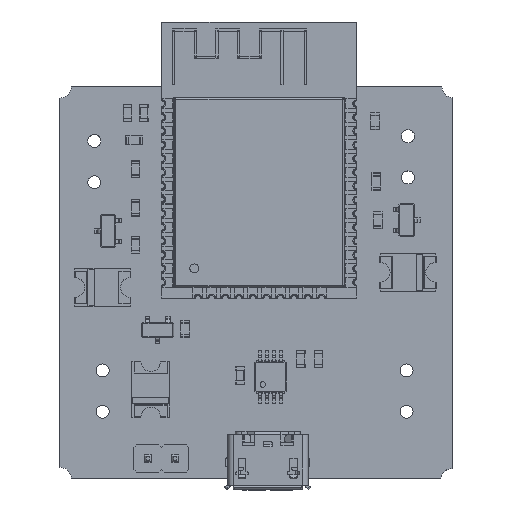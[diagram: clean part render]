
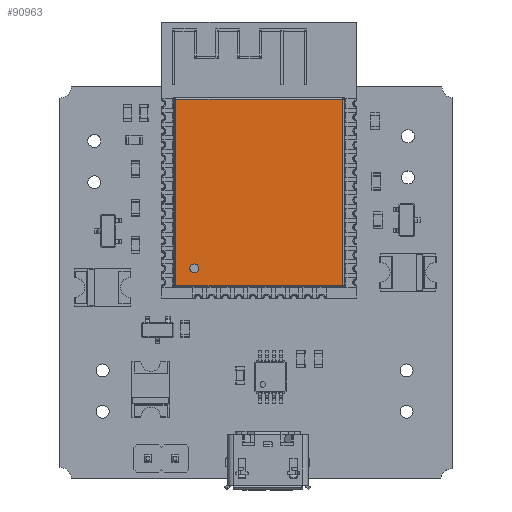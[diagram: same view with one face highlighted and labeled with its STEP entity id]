
A CAD part, top view. The second image highlights one B-rep face of the part: STEP entity #90963.
In plain terms, the highlighted planar face has unit normal (0, 0, 1).
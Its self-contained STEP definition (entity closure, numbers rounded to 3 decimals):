
#90764 = VERTEX_POINT('',#90765);
#90765 = CARTESIAN_POINT('',(-7.7,-8.6,3.1));
#90775 = CYLINDRICAL_SURFACE('',#90776,0.1);
#90776 = AXIS2_PLACEMENT_3D('',#90777,#90778,#90779);
#90777 = CARTESIAN_POINT('',(-7.7,-8.7,3.));
#90778 = DIRECTION('',(0.,1.,0.));
#90779 = DIRECTION('',(-1.,0.,0.));
#90799 = EDGE_CURVE('',#90764,#90800,#90802,.T.);
#90800 = VERTEX_POINT('',#90801);
#90801 = CARTESIAN_POINT('',(-7.7,8.6,3.1));
#90802 = SURFACE_CURVE('',#90803,(#90807,#90814),.PCURVE_S1.);
#90803 = LINE('',#90804,#90805);
#90804 = CARTESIAN_POINT('',(-7.7,-8.7,3.1));
#90805 = VECTOR('',#90806,1.);
#90806 = DIRECTION('',(0.,1.,0.));
#90807 = PCURVE('',#90775,#90808);
#90808 = DEFINITIONAL_REPRESENTATION('',(#90809),#90813);
#90809 = LINE('',#90810,#90811);
#90810 = CARTESIAN_POINT('',(1.571,0.));
#90811 = VECTOR('',#90812,1.);
#90812 = DIRECTION('',(0.,1.));
#90813 = ( GEOMETRIC_REPRESENTATION_CONTEXT(2) 
PARAMETRIC_REPRESENTATION_CONTEXT() REPRESENTATION_CONTEXT('2D SPACE',''
  ) );
#90814 = PCURVE('',#90815,#90820);
#90815 = PLANE('',#90816);
#90816 = AXIS2_PLACEMENT_3D('',#90817,#90818,#90819);
#90817 = CARTESIAN_POINT('',(-7.8,-8.7,3.1));
#90818 = DIRECTION('',(0.,0.,1.));
#90819 = DIRECTION('',(1.,0.,0.));
#90820 = DEFINITIONAL_REPRESENTATION('',(#90821),#90825);
#90821 = LINE('',#90822,#90823);
#90822 = CARTESIAN_POINT('',(0.1,0.));
#90823 = VECTOR('',#90824,1.);
#90824 = DIRECTION('',(0.,1.));
#90825 = ( GEOMETRIC_REPRESENTATION_CONTEXT(2) 
PARAMETRIC_REPRESENTATION_CONTEXT() REPRESENTATION_CONTEXT('2D SPACE',''
  ) );
#90951 = CYLINDRICAL_SURFACE('',#90952,0.1);
#90952 = AXIS2_PLACEMENT_3D('',#90953,#90954,#90955);
#90953 = CARTESIAN_POINT('',(-7.8,-8.6,3.));
#90954 = DIRECTION('',(1.,0.,0.));
#90955 = DIRECTION('',(0.,-1.,0.));
#90963 = ADVANCED_FACE('',(#90964,#91044),#90815,.T.);
#90964 = FACE_BOUND('',#90965,.T.);
#90965 = EDGE_LOOP('',(#90966,#90967,#90990,#91018));
#90966 = ORIENTED_EDGE('',*,*,#90799,.F.);
#90967 = ORIENTED_EDGE('',*,*,#90968,.T.);
#90968 = EDGE_CURVE('',#90764,#90969,#90971,.T.);
#90969 = VERTEX_POINT('',#90970);
#90970 = CARTESIAN_POINT('',(7.7,-8.6,3.1));
#90971 = SURFACE_CURVE('',#90972,(#90976,#90983),.PCURVE_S1.);
#90972 = LINE('',#90973,#90974);
#90973 = CARTESIAN_POINT('',(-7.8,-8.6,3.1));
#90974 = VECTOR('',#90975,1.);
#90975 = DIRECTION('',(1.,0.,0.));
#90976 = PCURVE('',#90815,#90977);
#90977 = DEFINITIONAL_REPRESENTATION('',(#90978),#90982);
#90978 = LINE('',#90979,#90980);
#90979 = CARTESIAN_POINT('',(0.,0.1));
#90980 = VECTOR('',#90981,1.);
#90981 = DIRECTION('',(1.,0.));
#90982 = ( GEOMETRIC_REPRESENTATION_CONTEXT(2) 
PARAMETRIC_REPRESENTATION_CONTEXT() REPRESENTATION_CONTEXT('2D SPACE',''
  ) );
#90983 = PCURVE('',#90951,#90984);
#90984 = DEFINITIONAL_REPRESENTATION('',(#90985),#90989);
#90985 = LINE('',#90986,#90987);
#90986 = CARTESIAN_POINT('',(4.712,0.));
#90987 = VECTOR('',#90988,1.);
#90988 = DIRECTION('',(0.,1.));
#90989 = ( GEOMETRIC_REPRESENTATION_CONTEXT(2) 
PARAMETRIC_REPRESENTATION_CONTEXT() REPRESENTATION_CONTEXT('2D SPACE',''
  ) );
#90990 = ORIENTED_EDGE('',*,*,#90991,.T.);
#90991 = EDGE_CURVE('',#90969,#90992,#90994,.T.);
#90992 = VERTEX_POINT('',#90993);
#90993 = CARTESIAN_POINT('',(7.7,8.6,3.1));
#90994 = SURFACE_CURVE('',#90995,(#90999,#91006),.PCURVE_S1.);
#90995 = LINE('',#90996,#90997);
#90996 = CARTESIAN_POINT('',(7.7,-8.7,3.1));
#90997 = VECTOR('',#90998,1.);
#90998 = DIRECTION('',(0.,1.,0.));
#90999 = PCURVE('',#90815,#91000);
#91000 = DEFINITIONAL_REPRESENTATION('',(#91001),#91005);
#91001 = LINE('',#91002,#91003);
#91002 = CARTESIAN_POINT('',(15.5,0.));
#91003 = VECTOR('',#91004,1.);
#91004 = DIRECTION('',(0.,1.));
#91005 = ( GEOMETRIC_REPRESENTATION_CONTEXT(2) 
PARAMETRIC_REPRESENTATION_CONTEXT() REPRESENTATION_CONTEXT('2D SPACE',''
  ) );
#91006 = PCURVE('',#91007,#91012);
#91007 = CYLINDRICAL_SURFACE('',#91008,0.1);
#91008 = AXIS2_PLACEMENT_3D('',#91009,#91010,#91011);
#91009 = CARTESIAN_POINT('',(7.7,-8.7,3.));
#91010 = DIRECTION('',(0.,1.,0.));
#91011 = DIRECTION('',(0.,0.,1.));
#91012 = DEFINITIONAL_REPRESENTATION('',(#91013),#91017);
#91013 = LINE('',#91014,#91015);
#91014 = CARTESIAN_POINT('',(0.,0.));
#91015 = VECTOR('',#91016,1.);
#91016 = DIRECTION('',(0.,1.));
#91017 = ( GEOMETRIC_REPRESENTATION_CONTEXT(2) 
PARAMETRIC_REPRESENTATION_CONTEXT() REPRESENTATION_CONTEXT('2D SPACE',''
  ) );
#91018 = ORIENTED_EDGE('',*,*,#91019,.F.);
#91019 = EDGE_CURVE('',#90800,#90992,#91020,.T.);
#91020 = SURFACE_CURVE('',#91021,(#91025,#91032),.PCURVE_S1.);
#91021 = LINE('',#91022,#91023);
#91022 = CARTESIAN_POINT('',(-7.8,8.6,3.1));
#91023 = VECTOR('',#91024,1.);
#91024 = DIRECTION('',(1.,0.,0.));
#91025 = PCURVE('',#90815,#91026);
#91026 = DEFINITIONAL_REPRESENTATION('',(#91027),#91031);
#91027 = LINE('',#91028,#91029);
#91028 = CARTESIAN_POINT('',(0.,17.3));
#91029 = VECTOR('',#91030,1.);
#91030 = DIRECTION('',(1.,0.));
#91031 = ( GEOMETRIC_REPRESENTATION_CONTEXT(2) 
PARAMETRIC_REPRESENTATION_CONTEXT() REPRESENTATION_CONTEXT('2D SPACE',''
  ) );
#91032 = PCURVE('',#91033,#91038);
#91033 = CYLINDRICAL_SURFACE('',#91034,0.1);
#91034 = AXIS2_PLACEMENT_3D('',#91035,#91036,#91037);
#91035 = CARTESIAN_POINT('',(-7.8,8.6,3.));
#91036 = DIRECTION('',(1.,0.,0.));
#91037 = DIRECTION('',(0.,0.,1.));
#91038 = DEFINITIONAL_REPRESENTATION('',(#91039),#91043);
#91039 = LINE('',#91040,#91041);
#91040 = CARTESIAN_POINT('',(6.283,0.));
#91041 = VECTOR('',#91042,1.);
#91042 = DIRECTION('',(0.,1.));
#91043 = ( GEOMETRIC_REPRESENTATION_CONTEXT(2) 
PARAMETRIC_REPRESENTATION_CONTEXT() REPRESENTATION_CONTEXT('2D SPACE',''
  ) );
#91044 = FACE_BOUND('',#91045,.T.);
#91045 = EDGE_LOOP('',(#91046));
#91046 = ORIENTED_EDGE('',*,*,#91047,.F.);
#91047 = EDGE_CURVE('',#91048,#91048,#91050,.T.);
#91048 = VERTEX_POINT('',#91049);
#91049 = CARTESIAN_POINT('',(-5.6,-7.,3.1));
#91050 = SURFACE_CURVE('',#91051,(#91056,#91063),.PCURVE_S1.);
#91051 = CIRCLE('',#91052,0.4);
#91052 = AXIS2_PLACEMENT_3D('',#91053,#91054,#91055);
#91053 = CARTESIAN_POINT('',(-6.,-7.,3.1));
#91054 = DIRECTION('',(0.,0.,1.));
#91055 = DIRECTION('',(1.,0.,0.));
#91056 = PCURVE('',#90815,#91057);
#91057 = DEFINITIONAL_REPRESENTATION('',(#91058),#91062);
#91058 = CIRCLE('',#91059,0.4);
#91059 = AXIS2_PLACEMENT_2D('',#91060,#91061);
#91060 = CARTESIAN_POINT('',(1.8,1.7));
#91061 = DIRECTION('',(1.,0.));
#91062 = ( GEOMETRIC_REPRESENTATION_CONTEXT(2) 
PARAMETRIC_REPRESENTATION_CONTEXT() REPRESENTATION_CONTEXT('2D SPACE',''
  ) );
#91063 = PCURVE('',#91064,#91069);
#91064 = CYLINDRICAL_SURFACE('',#91065,0.4);
#91065 = AXIS2_PLACEMENT_3D('',#91066,#91067,#91068);
#91066 = CARTESIAN_POINT('',(-6.,-7.,2.6));
#91067 = DIRECTION('',(0.,0.,1.));
#91068 = DIRECTION('',(1.,0.,0.));
#91069 = DEFINITIONAL_REPRESENTATION('',(#91070),#91074);
#91070 = LINE('',#91071,#91072);
#91071 = CARTESIAN_POINT('',(0.,0.5));
#91072 = VECTOR('',#91073,1.);
#91073 = DIRECTION('',(1.,0.));
#91074 = ( GEOMETRIC_REPRESENTATION_CONTEXT(2) 
PARAMETRIC_REPRESENTATION_CONTEXT() REPRESENTATION_CONTEXT('2D SPACE',''
  ) );
